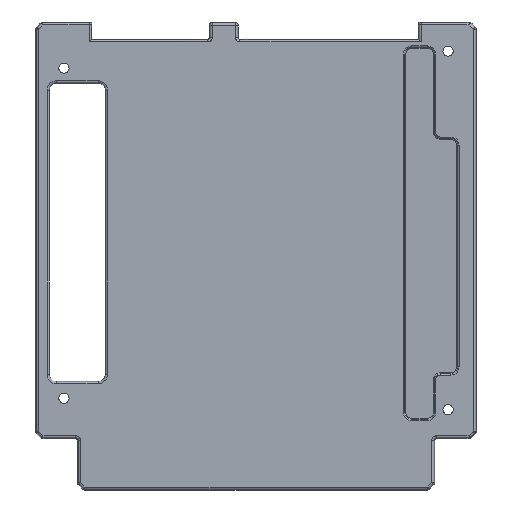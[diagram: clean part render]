
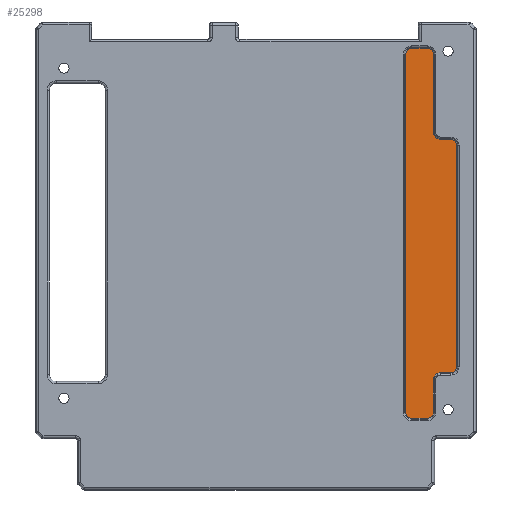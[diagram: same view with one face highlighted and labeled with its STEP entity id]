
A CAD part, front view. The second image highlights one B-rep face of the part: STEP entity #25298.
In plain terms, the highlighted planar face has unit normal (0, -1, 0).
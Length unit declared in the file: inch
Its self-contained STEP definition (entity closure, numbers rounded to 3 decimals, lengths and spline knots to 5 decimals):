
#10990=DIRECTION('',(0.,0.,-1.));
#10991=VECTOR('',#10990,3.148);
#10992=CARTESIAN_POINT('',(1.31503,0.025,1.5485));
#10993=LINE('',#10992,#10991);
#10997=CARTESIAN_POINT('',(1.367,0.025,1.5485));
#10998=DIRECTION('',(0.,-1.,0.));
#10999=DIRECTION('',(0.,0.,1.));
#11000=AXIS2_PLACEMENT_3D('',#10997,#10998,#10999);
#11005=DIRECTION('',(-1.,0.,0.));
#11006=VECTOR('',#11005,0.14);
#11007=CARTESIAN_POINT('',(1.507,0.025,1.60047));
#11008=LINE('',#11007,#11006);
#11012=CARTESIAN_POINT('',(1.507,0.025,1.5485));
#11013=DIRECTION('',(0.,-1.,0.));
#11014=DIRECTION('',(1.,0.,0.));
#11015=AXIS2_PLACEMENT_3D('',#11012,#11013,#11014);
#11020=DIRECTION('',(0.,0.,1.));
#11021=VECTOR('',#11020,0.6875);
#11022=CARTESIAN_POINT('',(1.55897,0.025,0.861));
#11023=LINE('',#11022,#11021);
#11027=CARTESIAN_POINT('',(1.6195,0.025,0.861));
#11028=DIRECTION('',(0.,1.,0.));
#11029=DIRECTION('',(0.,0.,-1.));
#11030=AXIS2_PLACEMENT_3D('',#11027,#11028,#11029);
#11035=DIRECTION('',(-1.,0.,0.));
#11036=VECTOR('',#11035,0.0925);
#11037=CARTESIAN_POINT('',(1.712,0.025,0.80047));
#11038=LINE('',#11037,#11036);
#11042=CARTESIAN_POINT('',(1.712,0.025,0.7485));
#11043=DIRECTION('',(0.,-1.,0.));
#11044=DIRECTION('',(1.,0.,0.));
#11045=AXIS2_PLACEMENT_3D('',#11042,#11043,#11044);
#11050=DIRECTION('',(0.,0.,1.));
#11051=VECTOR('',#11050,1.948);
#11052=CARTESIAN_POINT('',(1.76397,0.025,-1.1995));
#11053=LINE('',#11052,#11051);
#11057=CARTESIAN_POINT('',(1.712,0.025,-1.1995));
#11058=DIRECTION('',(0.,-1.,0.));
#11059=DIRECTION('',(0.,0.,-1.));
#11060=AXIS2_PLACEMENT_3D('',#11057,#11058,#11059);
#11065=DIRECTION('',(1.,0.,0.));
#11066=VECTOR('',#11065,0.0925);
#11067=CARTESIAN_POINT('',(1.6195,0.025,-1.25147));
#11068=LINE('',#11067,#11066);
#11072=CARTESIAN_POINT('',(1.6195,0.025,-1.312));
#11073=DIRECTION('',(0.,1.,0.));
#11074=DIRECTION('',(-1.,0.,0.));
#11075=AXIS2_PLACEMENT_3D('',#11072,#11073,#11074);
#11080=DIRECTION('',(0.,0.,1.));
#11081=VECTOR('',#11080,0.2875);
#11082=CARTESIAN_POINT('',(1.55897,0.025,-1.5995));
#11083=LINE('',#11082,#11081);
#11087=CARTESIAN_POINT('',(1.507,0.025,-1.5995));
#11088=DIRECTION('',(0.,-1.,0.));
#11089=DIRECTION('',(0.,0.,-1.));
#11090=AXIS2_PLACEMENT_3D('',#11087,#11088,#11089);
#11095=DIRECTION('',(1.,0.,0.));
#11096=VECTOR('',#11095,0.14);
#11097=CARTESIAN_POINT('',(1.367,0.025,-1.65147));
#11098=LINE('',#11097,#11096);
#11102=CARTESIAN_POINT('',(1.367,0.025,-1.5995));
#11103=DIRECTION('',(0.,-1.,0.));
#11104=DIRECTION('',(-1.,0.,0.));
#11105=AXIS2_PLACEMENT_3D('',#11102,#11103,#11104);
#11758=CARTESIAN_POINT('',(1.31503,0.025,1.5485));
#11759=CARTESIAN_POINT('',(1.31503,0.025,-1.5995));
#11760=VERTEX_POINT('',#11758);
#11761=VERTEX_POINT('',#11759);
#11764=CARTESIAN_POINT('',(1.367,0.025,-1.65147));
#11765=VERTEX_POINT('',#11764);
#11768=CARTESIAN_POINT('',(1.507,0.025,-1.65147));
#11769=VERTEX_POINT('',#11768);
#11772=CARTESIAN_POINT('',(1.55897,0.025,-1.5995));
#11773=VERTEX_POINT('',#11772);
#11776=CARTESIAN_POINT('',(1.55897,0.025,-1.312));
#11777=VERTEX_POINT('',#11776);
#11780=CARTESIAN_POINT('',(1.6195,0.025,-1.25147));
#11781=VERTEX_POINT('',#11780);
#11784=CARTESIAN_POINT('',(1.712,0.025,-1.25147));
#11785=VERTEX_POINT('',#11784);
#11788=CARTESIAN_POINT('',(1.76397,0.025,-1.1995));
#11789=VERTEX_POINT('',#11788);
#11792=CARTESIAN_POINT('',(1.76397,0.025,0.7485));
#11793=VERTEX_POINT('',#11792);
#11796=CARTESIAN_POINT('',(1.712,0.025,0.80047));
#11797=VERTEX_POINT('',#11796);
#11800=CARTESIAN_POINT('',(1.6195,0.025,0.80047));
#11801=VERTEX_POINT('',#11800);
#11804=CARTESIAN_POINT('',(1.55897,0.025,0.861));
#11805=VERTEX_POINT('',#11804);
#11808=CARTESIAN_POINT('',(1.55897,0.025,1.5485));
#11809=VERTEX_POINT('',#11808);
#11812=CARTESIAN_POINT('',(1.507,0.025,1.60047));
#11813=VERTEX_POINT('',#11812);
#11816=CARTESIAN_POINT('',(1.367,0.025,1.60047));
#11817=VERTEX_POINT('',#11816);
#25275=CARTESIAN_POINT('',(0.,0.025,0.));
#25276=DIRECTION('',(0.,1.,0.));
#25277=DIRECTION('',(1.,0.,0.));
#25278=AXIS2_PLACEMENT_3D('',#25275,#25276,#25277);
#25279=PLANE('',#25278);
#25280=ORIENTED_EDGE('',*,*,#25269,.F.);
#25281=ORIENTED_EDGE('',*,*,#25059,.F.);
#25282=ORIENTED_EDGE('',*,*,#25074,.F.);
#25283=ORIENTED_EDGE('',*,*,#25088,.F.);
#25284=ORIENTED_EDGE('',*,*,#25102,.F.);
#25285=ORIENTED_EDGE('',*,*,#25116,.F.);
#25286=ORIENTED_EDGE('',*,*,#25130,.F.);
#25287=ORIENTED_EDGE('',*,*,#25144,.F.);
#25288=ORIENTED_EDGE('',*,*,#25158,.F.);
#25289=ORIENTED_EDGE('',*,*,#25172,.F.);
#25290=ORIENTED_EDGE('',*,*,#25186,.F.);
#25291=ORIENTED_EDGE('',*,*,#25200,.F.);
#25292=ORIENTED_EDGE('',*,*,#25214,.F.);
#25293=ORIENTED_EDGE('',*,*,#25228,.F.);
#25294=ORIENTED_EDGE('',*,*,#25242,.F.);
#25295=ORIENTED_EDGE('',*,*,#25256,.F.);
#25296=EDGE_LOOP('',(#25280,#25281,#25282,#25283,#25284,#25285,#25286,#25287,
#25288,#25289,#25290,#25291,#25292,#25293,#25294,#25295));
#25297=FACE_OUTER_BOUND('',#25296,.F.);
#25298=ADVANCED_FACE('',(#25297),#25279,.F.);
#11001=CIRCLE('',#11000,0.05197);
#11016=CIRCLE('',#11015,0.05197);
#11031=CIRCLE('',#11030,0.06053);
#11046=CIRCLE('',#11045,0.05197);
#11061=CIRCLE('',#11060,0.05197);
#11076=CIRCLE('',#11075,0.06053);
#11091=CIRCLE('',#11090,0.05197);
#11106=CIRCLE('',#11105,0.05197);
#25059=EDGE_CURVE('',#11817,#11760,#11001,.T.);
#25074=EDGE_CURVE('',#11813,#11817,#11008,.T.);
#25088=EDGE_CURVE('',#11809,#11813,#11016,.T.);
#25102=EDGE_CURVE('',#11805,#11809,#11023,.T.);
#25116=EDGE_CURVE('',#11801,#11805,#11031,.T.);
#25130=EDGE_CURVE('',#11797,#11801,#11038,.T.);
#25144=EDGE_CURVE('',#11793,#11797,#11046,.T.);
#25158=EDGE_CURVE('',#11789,#11793,#11053,.T.);
#25172=EDGE_CURVE('',#11785,#11789,#11061,.T.);
#25186=EDGE_CURVE('',#11781,#11785,#11068,.T.);
#25200=EDGE_CURVE('',#11777,#11781,#11076,.T.);
#25214=EDGE_CURVE('',#11773,#11777,#11083,.T.);
#25228=EDGE_CURVE('',#11769,#11773,#11091,.T.);
#25242=EDGE_CURVE('',#11765,#11769,#11098,.T.);
#25256=EDGE_CURVE('',#11761,#11765,#11106,.T.);
#25269=EDGE_CURVE('',#11760,#11761,#10993,.T.);
